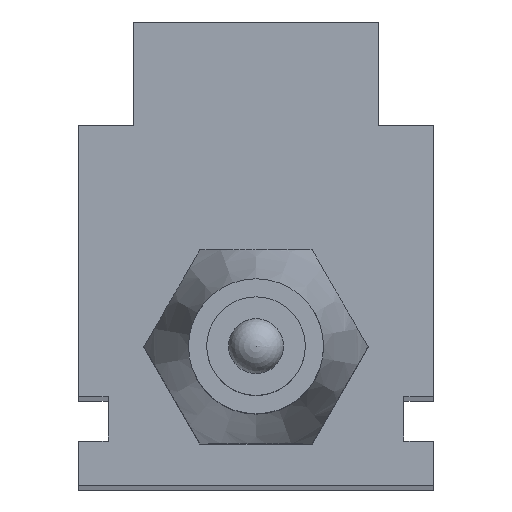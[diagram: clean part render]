
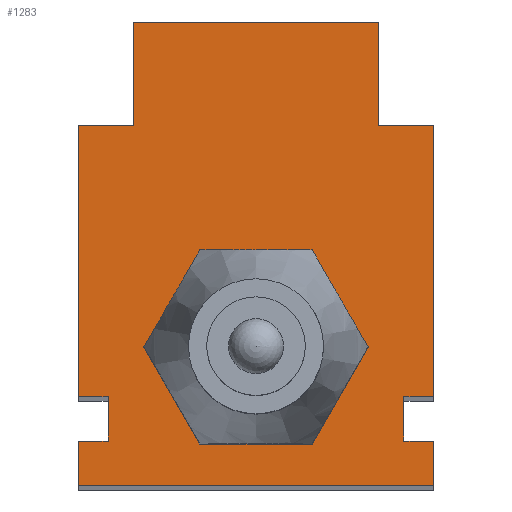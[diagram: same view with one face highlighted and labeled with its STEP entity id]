
A CAD part, top view. The second image highlights one B-rep face of the part: STEP entity #1283.
In plain terms, the highlighted planar face has unit normal (0, 0, 1).
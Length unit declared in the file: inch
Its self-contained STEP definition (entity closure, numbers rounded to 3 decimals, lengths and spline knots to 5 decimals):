
#40=FACE_BOUND('',#164,.T.);
#61=CIRCLE('',#1374,0.178);
#85=FACE_OUTER_BOUND('',#163,.T.);
#163=EDGE_LOOP('',(#853,#854,#855,#856,#857,#858,#859,#860,#861,#862,#863,
#864,#865,#866,#867,#868));
#164=EDGE_LOOP('',(#869));
#269=LINE('',#1823,#410);
#270=LINE('',#1826,#411);
#272=LINE('',#1830,#413);
#275=LINE('',#1836,#416);
#276=LINE('',#1838,#417);
#277=LINE('',#1840,#418);
#278=LINE('',#1842,#419);
#279=LINE('',#1844,#420);
#280=LINE('',#1846,#421);
#281=LINE('',#1848,#422);
#282=LINE('',#1850,#423);
#283=LINE('',#1852,#424);
#284=LINE('',#1854,#425);
#285=LINE('',#1856,#426);
#286=LINE('',#1858,#427);
#287=LINE('',#1859,#428);
#410=VECTOR('',#1488,0.3937);
#411=VECTOR('',#1491,0.3937);
#413=VECTOR('',#1495,0.3937);
#416=VECTOR('',#1500,0.3937);
#417=VECTOR('',#1501,0.3937);
#418=VECTOR('',#1502,0.3937);
#419=VECTOR('',#1503,0.3937);
#420=VECTOR('',#1504,0.3937);
#421=VECTOR('',#1505,0.3937);
#422=VECTOR('',#1506,0.3937);
#423=VECTOR('',#1507,0.3937);
#424=VECTOR('',#1508,0.3937);
#425=VECTOR('',#1509,0.3937);
#426=VECTOR('',#1510,0.3937);
#427=VECTOR('',#1511,0.3937);
#428=VECTOR('',#1512,0.3937);
#545=VERTEX_POINT('',#1818);
#546=VERTEX_POINT('',#1821);
#547=VERTEX_POINT('',#1825);
#548=VERTEX_POINT('',#1829);
#550=VERTEX_POINT('',#1835);
#551=VERTEX_POINT('',#1837);
#552=VERTEX_POINT('',#1839);
#553=VERTEX_POINT('',#1841);
#554=VERTEX_POINT('',#1843);
#555=VERTEX_POINT('',#1845);
#556=VERTEX_POINT('',#1847);
#557=VERTEX_POINT('',#1849);
#558=VERTEX_POINT('',#1851);
#559=VERTEX_POINT('',#1853);
#560=VERTEX_POINT('',#1855);
#561=VERTEX_POINT('',#1857);
#562=VERTEX_POINT('',#1860);
#668=EDGE_CURVE('',#545,#546,#269,.T.);
#669=EDGE_CURVE('',#546,#547,#270,.T.);
#671=EDGE_CURVE('',#545,#548,#272,.T.);
#674=EDGE_CURVE('',#550,#547,#275,.T.);
#675=EDGE_CURVE('',#550,#551,#276,.T.);
#676=EDGE_CURVE('',#551,#552,#277,.T.);
#677=EDGE_CURVE('',#553,#552,#278,.T.);
#678=EDGE_CURVE('',#554,#553,#279,.T.);
#679=EDGE_CURVE('',#555,#554,#280,.T.);
#680=EDGE_CURVE('',#556,#555,#281,.T.);
#681=EDGE_CURVE('',#557,#556,#282,.T.);
#682=EDGE_CURVE('',#558,#557,#283,.T.);
#683=EDGE_CURVE('',#559,#558,#284,.T.);
#684=EDGE_CURVE('',#560,#559,#285,.T.);
#685=EDGE_CURVE('',#561,#560,#286,.T.);
#686=EDGE_CURVE('',#548,#561,#287,.T.);
#687=EDGE_CURVE('',#562,#562,#61,.T.);
#853=ORIENTED_EDGE('',*,*,#668,.T.);
#854=ORIENTED_EDGE('',*,*,#669,.T.);
#855=ORIENTED_EDGE('',*,*,#674,.F.);
#856=ORIENTED_EDGE('',*,*,#675,.T.);
#857=ORIENTED_EDGE('',*,*,#676,.T.);
#858=ORIENTED_EDGE('',*,*,#677,.F.);
#859=ORIENTED_EDGE('',*,*,#678,.F.);
#860=ORIENTED_EDGE('',*,*,#679,.F.);
#861=ORIENTED_EDGE('',*,*,#680,.F.);
#862=ORIENTED_EDGE('',*,*,#681,.F.);
#863=ORIENTED_EDGE('',*,*,#682,.F.);
#864=ORIENTED_EDGE('',*,*,#683,.F.);
#865=ORIENTED_EDGE('',*,*,#684,.F.);
#866=ORIENTED_EDGE('',*,*,#685,.F.);
#867=ORIENTED_EDGE('',*,*,#686,.F.);
#868=ORIENTED_EDGE('',*,*,#671,.F.);
#869=ORIENTED_EDGE('',*,*,#687,.T.);
#1165=PLANE('',#1373);
#1283=ADVANCED_FACE('',(#85,#40),#1165,.T.);
#1373=AXIS2_PLACEMENT_3D('',#1834,#1498,#1499);
#1374=AXIS2_PLACEMENT_3D('',#1861,#1513,#1514);
#1488=DIRECTION('',(-1.,0.,0.));
#1491=DIRECTION('',(0.,1.,0.));
#1495=DIRECTION('',(0.,-1.,0.));
#1498=DIRECTION('center_axis',(0.,0.,1.));
#1499=DIRECTION('ref_axis',(1.,0.,0.));
#1500=DIRECTION('',(1.,0.,0.));
#1501=DIRECTION('',(0.,-1.,0.));
#1502=DIRECTION('',(-1.,0.,0.));
#1503=DIRECTION('',(0.,1.,0.));
#1504=DIRECTION('',(-1.,0.,0.));
#1505=DIRECTION('',(0.,1.,0.));
#1506=DIRECTION('',(1.,0.,0.));
#1507=DIRECTION('',(0.,1.,0.));
#1508=DIRECTION('',(-1.,0.,0.));
#1509=DIRECTION('',(0.,-1.,0.));
#1510=DIRECTION('',(1.,0.,0.));
#1511=DIRECTION('',(0.,-1.,0.));
#1512=DIRECTION('',(-1.,0.,0.));
#1513=DIRECTION('center_axis',(0.,0.,-1.));
#1514=DIRECTION('ref_axis',(1.,0.,0.));
#1818=CARTESIAN_POINT('',(0.35998,0.4564,-5.09197));
#1821=CARTESIAN_POINT('',(0.24877,0.4564,-5.09197));
#1823=CARTESIAN_POINT('',(0.12438,0.4564,-5.09197));
#1825=CARTESIAN_POINT('',(0.24877,0.6664,-5.09197));
#1826=CARTESIAN_POINT('',(0.24877,0.42011,-5.09197));
#1829=CARTESIAN_POINT('',(0.35998,-0.0936,-5.09197));
#1830=CARTESIAN_POINT('',(0.35998,0.6664,-5.09197));
#1834=CARTESIAN_POINT('Origin',(-0.00002,0.17382,
-5.09197));
#1835=CARTESIAN_POINT('',(-0.24877,0.6664,-5.09197));
#1836=CARTESIAN_POINT('',(-0.36002,0.6664,-5.09197));
#1837=CARTESIAN_POINT('',(-0.24877,0.4564,-5.09197));
#1838=CARTESIAN_POINT('',(-0.24877,0.42011,-5.09197));
#1839=CARTESIAN_POINT('',(-0.36002,0.4564,-5.09197));
#1840=CARTESIAN_POINT('',(-0.1244,0.4564,-5.09197));
#1841=CARTESIAN_POINT('',(-0.36002,-0.0936,-5.09197));
#1842=CARTESIAN_POINT('',(-0.36002,-0.0936,-5.09197));
#1843=CARTESIAN_POINT('',(-0.30002,-0.0936,-5.09197));
#1844=CARTESIAN_POINT('',(-0.30002,-0.0936,-5.09197));
#1845=CARTESIAN_POINT('',(-0.30002,-0.1836,-5.09197));
#1846=CARTESIAN_POINT('',(-0.30002,-0.1836,-5.09197));
#1847=CARTESIAN_POINT('',(-0.36002,-0.1836,-5.09197));
#1848=CARTESIAN_POINT('',(-0.36002,-0.1836,-5.09197));
#1849=CARTESIAN_POINT('',(-0.36002,-0.2736,-5.09197));
#1850=CARTESIAN_POINT('',(-0.36002,-0.2736,-5.09197));
#1851=CARTESIAN_POINT('',(0.35998,-0.2736,-5.09197));
#1852=CARTESIAN_POINT('',(0.35998,-0.2736,-5.09197));
#1853=CARTESIAN_POINT('',(0.35998,-0.1836,-5.09197));
#1854=CARTESIAN_POINT('',(0.35998,0.6664,-5.09197));
#1855=CARTESIAN_POINT('',(0.29998,-0.1836,-5.09197));
#1856=CARTESIAN_POINT('',(0.29998,-0.1836,-5.09197));
#1857=CARTESIAN_POINT('',(0.29998,-0.0936,-5.09197));
#1858=CARTESIAN_POINT('',(0.29998,-0.0936,-5.09197));
#1859=CARTESIAN_POINT('',(0.35998,-0.0936,-5.09197));
#1860=CARTESIAN_POINT('',(-0.178,0.,-5.09197));
#1861=CARTESIAN_POINT('Origin',(0.,0.,-5.09197));
